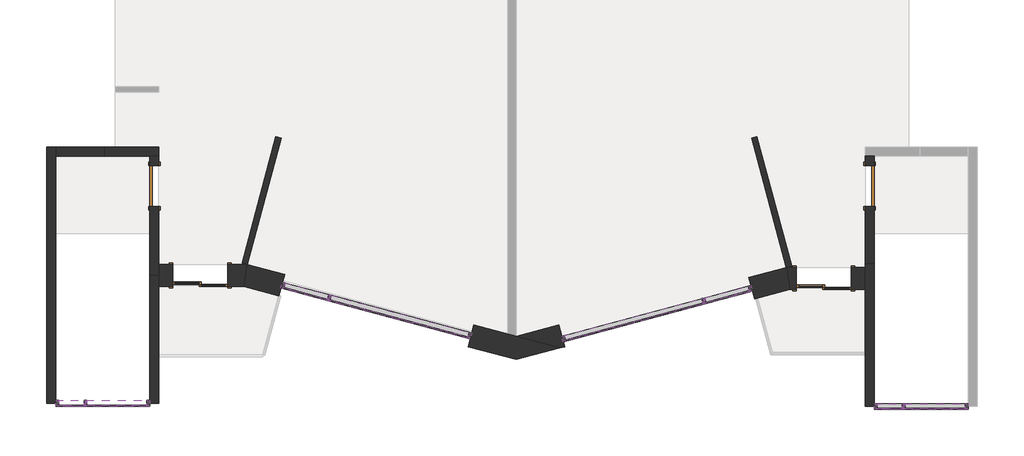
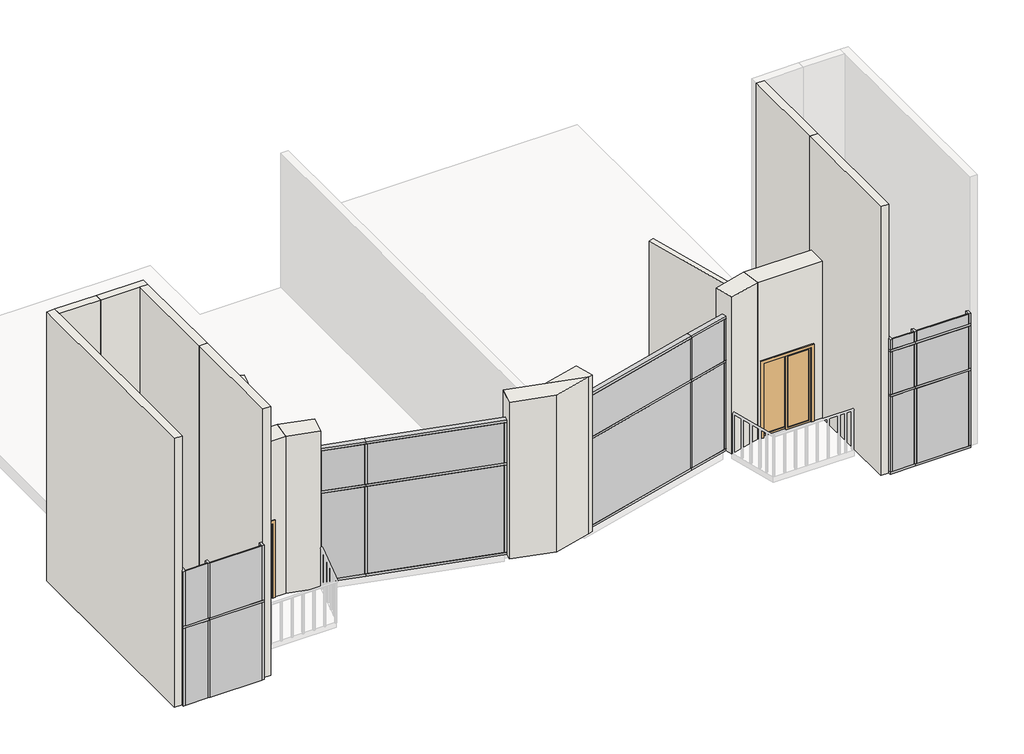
# One storey, part 1 of 2: 47 members, 18 plates, 15 walls, 4 doors.
"""IFC4 building model written with IfcOpenShell, lengths in millimetres."""

from ifc_helpers import new_model, si_unit, frame, origin, place, context, project, spatial, polyline, outline, extrude, faceted_brep, transform, mapped, element, save
from components import door_4f2f89b6, door_09f6fe45, sliding_2_panel_fa528627, glazed_panel_glazed_panel_b2ebe934, glazed_panel_glazed_panel_48c708ce, glazed_panel_glazed_panel_1e96fca1, glazed_panel_glazed_panel_5dc94581, glazed_panel_glazed_panel_56ef64bd, glazed_panel_glazed_panel_eaccde55, glazed_panel_glazed_panel_fd88623c, glazed_panel_glazed_panel_71207702, glazed_panel_glazed_panel_82ed4464, glazed_panel_glazed_panel_c8631b44, glazed_panel_glazed_panel_1da3f97b, glazed_panel_glazed_panel_d60c81f7, glazed_panel_glazed_panel_666a1eef, glazed_panel_glazed_panel_fae6096d, glazed_panel_glazed_panel_424e5e11, glazed_panel_glazed_panel_31fbc108, glazed_panel_glazed_panel_2c2364df, glazed_panel_glazed_panel_bd68a80f

model = new_model("IFC4")

# Units and contexts
model_context = context("Model", 3, world=origin())
ifc_project = project(units=[si_unit("LENGTHUNIT", "METRE", prefix="MILLI")], contexts=[model_context])

# Site, building, storey
site = spatial("IfcSite", under=ifc_project)
building = spatial("IfcBuilding", under=site)
storey = spatial("IfcBuildingStorey", under=building, Name="3rd Flr. Cnst.", Elevation=7315.2)

# Doors
placement = place(None, origin())
door_shape = door_4f2f89b6(model_context)
element("IfcDoor", 1, ObjectType="Sgl Flush : 36\" x 80\"", at=placement, inside=storey, context=model_context, shape_type="MappedRepresentation", body=[
    mapped(door_shape, transform((-178.915882, -926.5666814, 7315.2), x_axis=(0.0, 1.0, 0.0), y_axis=(-1.0, 0.0, 0.0), z_axis=(0.0, 0.0, 1.0))),
])
door_2_shape = door_09f6fe45(model_context)
element("IfcDoor", 2, ObjectType="Sgl Flush : 36\" x 80\"", at=placement, inside=storey, context=model_context, shape_type="MappedRepresentation", body=[
    mapped(door_2_shape, transform((15670.684118, -926.5666814, 7315.2), x_axis=(0.0, 1.0, 0.0), y_axis=(-1.0, 0.0, 0.0), z_axis=(0.0, 0.0, 1.0))),
])
sliding_2_panel_shape = sliding_2_panel_fa528627(model_context)
element("IfcDoor", 3, ObjectType="Sliding-2 panel : Cohouse - Sliding-2 ", at=placement, inside=storey, context=model_context, shape_type="MappedRepresentation", body=[
    mapped(sliding_2_panel_shape, transform((837.084118, -2780.7666814, 7315.2), x_axis=(-1.0, 0.0, 0.0), y_axis=(0.0, -1.0, 0.0), z_axis=(0.0, 0.0, 1.0))),
])
element("IfcDoor", 4, ObjectType="Sliding-2 panel : Cohouse - Sliding-2 ", at=placement, inside=storey, context=model_context, shape_type="MappedRepresentation", body=[
    mapped(sliding_2_panel_shape, transform((14654.684118, -2848.4709645, 7315.2), x_axis=(-1.0, 0.0, 0.0), y_axis=(0.0, -1.0, 0.0), z_axis=(0.0, 0.0, 1.0))),
])

# Members
element("IfcMember", 5, ObjectType="Rectangular Mullion : 2.5\" x 5\" rectangular", at=placement, inside=storey, context=model_context, shape_type="SweptSolid", body=[
    extrude(outline(polyline([(3713.0844872, -3476.6816756), (3651.7481973, -3460.2466663), (3684.618216, -3337.5740863), (3745.954506, -3354.0090957), (3713.0844872, -3476.6816756)])), frame((0.0, 0.0, 7378.7), z_axis=(0.0, 0.0, 1.0), x_axis=(1.0, 0.0, 0.0)), (0.0, 0.0, 1.0), 2374.9),
])
element("IfcMember", 6, ObjectType="Rectangular Mullion : 2.5\" x 5\" rectangular", at=placement, inside=storey, context=model_context, shape_type="SweptSolid", body=[
    extrude(outline(polyline([(3713.0844872, -3476.6816756), (3651.7481973, -3460.2466663), (3684.618216, -3337.5740863), (3745.954506, -3354.0090957), (3713.0844872, -3476.6816756)])), frame((0.0, 0.0, 9817.1), z_axis=(0.0, 0.0, 1.0), x_axis=(1.0, 0.0, 0.0)), (0.0, 0.0, 1.0), 1092.2),
])
element("IfcMember", 7, ObjectType="Rectangular Mullion : 2.5\" x 5\" rectangular", at=placement, inside=storey, context=model_context, shape_type="SweptSolid", body=[
    extrude(outline(polyline([(3715.286361, -3345.791591), (3682.4163423, -3468.4641709), (2626.8568487, -3185.6278571), (2659.7268674, -3062.9552771), (3715.286361, -3345.791591)])), frame((0.0, 0.0, 9753.6), z_axis=(0.0, 0.0, 1.0), x_axis=(1.0, 0.0, 0.0)), (0.0, 0.0, 1.0), 63.5),
])
element("IfcMember", 8, ObjectType="Rectangular Mullion : 2.5\" x 5\" rectangular", at=placement, inside=storey, context=model_context, shape_type="SweptSolid", body=[
    extrude(outline(polyline([(6855.7490815, -4187.2760408), (6822.8790627, -4309.9486208), (3682.4163423, -3468.4641709), (3715.286361, -3345.791591), (6855.7490815, -4187.2760408)])), frame((0.0, 0.0, 9753.6), z_axis=(0.0, 0.0, 1.0), x_axis=(1.0, 0.0, 0.0)), (0.0, 0.0, 1.0), 63.5),
])
element("IfcMember", 9, ObjectType="Rectangular Mullion : 2.5\" x 5\" rectangular", at=placement, inside=storey, context=model_context, shape_type="SweptSolid", body=[
    extrude(outline(polyline([(6855.7490815, -4187.2760408), (6822.8790627, -4309.9486208), (3682.4163423, -3468.4641709), (3715.286361, -3345.791591), (6855.7490815, -4187.2760408)])), frame((0.0, 0.0, 10909.3), z_axis=(0.0, 0.0, 1.0), x_axis=(1.0, 0.0, 0.0)), (0.0, 0.0, 1.0), 63.5),
])
element("IfcMember", 10, ObjectType="Rectangular Mullion : 2.5\" x 5\" rectangular", at=placement, inside=storey, context=model_context, shape_type="SweptSolid", body=[
    extrude(outline(polyline([(3715.286361, -3345.791591), (3682.4163423, -3468.4641709), (2626.8568487, -3185.6278571), (2659.7268674, -3062.9552771), (3715.286361, -3345.791591)])), frame((0.0, 0.0, 10909.3), z_axis=(0.0, 0.0, 1.0), x_axis=(1.0, 0.0, 0.0)), (0.0, 0.0, 1.0), 63.5),
])
element("IfcMember", 11, ObjectType="Rectangular Mullion : 2.5\" x 5\" rectangular", at=placement, inside=storey, context=model_context, shape_type="SweptSolid", body=[
    extrude(outline(polyline([(2626.8568487, -3185.6278571), (2659.7268674, -3062.9552771), (3715.286361, -3345.791591), (3682.4163423, -3468.4641709), (2626.8568487, -3185.6278571)])), frame((0.0, 0.0, 7315.2), z_axis=(0.0, 0.0, 1.0), x_axis=(1.0, 0.0, 0.0)), (0.0, 0.0, 1.0), 63.5),
])
element("IfcMember", 12, ObjectType="Rectangular Mullion : 2.5\" x 5\" rectangular", at=placement, inside=storey, context=model_context, shape_type="SweptSolid", body=[
    extrude(outline(polyline([(3682.4163423, -3468.4641709), (3715.286361, -3345.791591), (6855.7490815, -4187.2760408), (6822.8790627, -4309.9486208), (3682.4163423, -3468.4641709)])), frame((0.0, 0.0, 7315.2), z_axis=(0.0, 0.0, 1.0), x_axis=(1.0, 0.0, 0.0)), (0.0, 0.0, 1.0), 63.5),
])
element("IfcMember", 13, ObjectType="Rectangular Mullion : 2.5\" x 5\" rectangular", at=placement, inside=storey, context=model_context, shape_type="SweptSolid", body=[
    extrude(outline(polyline([(6822.8790627, -4309.9486208), (6761.5427728, -4293.5136114), (6794.4127915, -4170.8410315), (6855.7490815, -4187.2760408), (6822.8790627, -4309.9486208)])), frame((0.0, 0.0, 7378.7), z_axis=(0.0, 0.0, 1.0), x_axis=(1.0, 0.0, 0.0)), (0.0, 0.0, 1.0), 2374.9),
])
element("IfcMember", 14, ObjectType="Rectangular Mullion : 2.5\" x 5\" rectangular", at=placement, inside=storey, context=model_context, shape_type="SweptSolid", body=[
    extrude(outline(polyline([(6822.8790627, -4309.9486208), (6761.5427728, -4293.5136114), (6794.4127915, -4170.8410315), (6855.7490815, -4187.2760408), (6822.8790627, -4309.9486208)])), frame((0.0, 0.0, 9817.1), z_axis=(0.0, 0.0, 1.0), x_axis=(1.0, 0.0, 0.0)), (0.0, 0.0, 1.0), 1092.2),
])
element("IfcMember", 15, ObjectType="Rectangular Mullion : 2.5\" x 5\" rectangular", at=placement, inside=storey, context=model_context, shape_type="SweptSolid", body=[
    extrude(outline(polyline([(2626.8568487, -3185.6278571), (2659.7268674, -3062.9552771), (2721.0631574, -3079.3902865), (2688.1931387, -3202.0628664), (2626.8568487, -3185.6278571)])), frame((0.0, 0.0, 9817.1), z_axis=(0.0, 0.0, 1.0), x_axis=(1.0, 0.0, 0.0)), (0.0, 0.0, 1.0), 1092.2),
])
element("IfcMember", 16, ObjectType="Rectangular Mullion : 2.5\" x 5\" rectangular", at=placement, inside=storey, context=model_context, shape_type="SweptSolid", body=[
    extrude(outline(polyline([(2626.8568487, -3185.6278571), (2659.7268674, -3062.9552771), (2721.0631574, -3079.3902865), (2688.1931387, -3202.0628664), (2626.8568487, -3185.6278571)])), frame((0.0, 0.0, 7378.7), z_axis=(0.0, 0.0, 1.0), x_axis=(1.0, 0.0, 0.0)), (0.0, 0.0, 1.0), 2374.9),
])
element("IfcMember", 17, ObjectType="Rectangular Mullion : 2.5\" x 5\" rectangular", at=placement, inside=storey, context=model_context, shape_type="SweptSolid", body=[
    extrude(outline(polyline([(11954.4366424, -3421.7133787), (12015.7729323, -3405.2783694), (12048.642951, -3527.9509493), (11987.3066611, -3544.3859587), (11954.4366424, -3421.7133787)])), frame((0.0, 0.0, 7378.7), z_axis=(0.0, 0.0, 1.0), x_axis=(1.0, 0.0, 0.0)), (0.0, 0.0, 1.0), 2343.15),
])
element("IfcMember", 18, ObjectType="Rectangular Mullion : 2.5\" x 5\" rectangular", at=placement, inside=storey, context=model_context, shape_type="SweptSolid", body=[
    extrude(outline(polyline([(11954.4366424, -3421.7133787), (12015.7729323, -3405.2783694), (12048.642951, -3527.9509493), (11987.3066611, -3544.3859587), (11954.4366424, -3421.7133787)])), frame((0.0, 0.0, 9785.35), z_axis=(0.0, 0.0, 1.0), x_axis=(1.0, 0.0, 0.0)), (0.0, 0.0, 1.0), 1123.95),
])
element("IfcMember", 19, ObjectType="Rectangular Mullion : 2.5\" x 5\" rectangular", at=placement, inside=storey, context=model_context, shape_type="SweptSolid", body=[
    extrude(outline(polyline([(12017.9748061, -3536.168454), (11985.1047873, -3413.495874), (13040.6642809, -3130.6595602), (13073.5342996, -3253.3321401), (12017.9748061, -3536.168454)])), frame((0.0, 0.0, 9721.85), z_axis=(0.0, 0.0, 1.0), x_axis=(1.0, 0.0, 0.0)), (0.0, 0.0, 1.0), 63.5),
])
element("IfcMember", 20, ObjectType="Rectangular Mullion : 2.5\" x 5\" rectangular", at=placement, inside=storey, context=model_context, shape_type="SweptSolid", body=[
    extrude(outline(polyline([(8877.5120856, -4377.6529038), (8844.6420668, -4254.9803239), (11985.1047873, -3413.495874), (12017.9748061, -3536.168454), (8877.5120856, -4377.6529038)])), frame((0.0, 0.0, 9721.85), z_axis=(0.0, 0.0, 1.0), x_axis=(1.0, 0.0, 0.0)), (0.0, 0.0, 1.0), 63.5),
])
element("IfcMember", 21, ObjectType="Rectangular Mullion : 2.5\" x 5\" rectangular", at=placement, inside=storey, context=model_context, shape_type="SweptSolid", body=[
    extrude(outline(polyline([(8877.5120856, -4377.6529038), (8844.6420668, -4254.9803239), (11985.1047873, -3413.495874), (12017.9748061, -3536.168454), (8877.5120856, -4377.6529038)])), frame((0.0, 0.0, 10909.3), z_axis=(0.0, 0.0, 1.0), x_axis=(1.0, 0.0, 0.0)), (0.0, 0.0, 1.0), 63.5),
])
element("IfcMember", 22, ObjectType="Rectangular Mullion : 2.5\" x 5\" rectangular", at=placement, inside=storey, context=model_context, shape_type="SweptSolid", body=[
    extrude(outline(polyline([(12017.9748061, -3536.168454), (11985.1047873, -3413.495874), (13040.6642809, -3130.6595602), (13073.5342996, -3253.3321401), (12017.9748061, -3536.168454)])), frame((0.0, 0.0, 10909.3), z_axis=(0.0, 0.0, 1.0), x_axis=(1.0, 0.0, 0.0)), (0.0, 0.0, 1.0), 63.5),
])
element("IfcMember", 23, ObjectType="Rectangular Mullion : 2.5\" x 5\" rectangular", at=placement, inside=storey, context=model_context, shape_type="SweptSolid", body=[
    extrude(outline(polyline([(13040.6642809, -3130.6595602), (13073.5342996, -3253.3321401), (12017.9748061, -3536.168454), (11985.1047873, -3413.495874), (13040.6642809, -3130.6595602)])), frame((0.0, 0.0, 7315.2), z_axis=(0.0, 0.0, 1.0), x_axis=(1.0, 0.0, 0.0)), (0.0, 0.0, 1.0), 63.5),
])
element("IfcMember", 24, ObjectType="Rectangular Mullion : 2.5\" x 5\" rectangular", at=placement, inside=storey, context=model_context, shape_type="SweptSolid", body=[
    extrude(outline(polyline([(11985.1047873, -3413.495874), (12017.9748061, -3536.168454), (8877.5120856, -4377.6529038), (8844.6420668, -4254.9803239), (11985.1047873, -3413.495874)])), frame((0.0, 0.0, 7315.2), z_axis=(0.0, 0.0, 1.0), x_axis=(1.0, 0.0, 0.0)), (0.0, 0.0, 1.0), 63.5),
])
element("IfcMember", 25, ObjectType="Rectangular Mullion : 2.5\" x 5\" rectangular", at=placement, inside=storey, context=model_context, shape_type="SweptSolid", body=[
    extrude(outline(polyline([(8844.6420668, -4254.9803239), (8905.9783568, -4238.5453145), (8938.8483755, -4361.2178944), (8877.5120856, -4377.6529038), (8844.6420668, -4254.9803239)])), frame((0.0, 0.0, 7378.7), z_axis=(0.0, 0.0, 1.0), x_axis=(1.0, 0.0, 0.0)), (0.0, 0.0, 1.0), 2343.15),
])
element("IfcMember", 26, ObjectType="Rectangular Mullion : 2.5\" x 5\" rectangular", at=placement, inside=storey, context=model_context, shape_type="SweptSolid", body=[
    extrude(outline(polyline([(8844.6420668, -4254.9803239), (8905.9783568, -4238.5453145), (8938.8483755, -4361.2178944), (8877.5120856, -4377.6529038), (8844.6420668, -4254.9803239)])), frame((0.0, 0.0, 9785.35), z_axis=(0.0, 0.0, 1.0), x_axis=(1.0, 0.0, 0.0)), (0.0, 0.0, 1.0), 1123.95),
])
element("IfcMember", 27, ObjectType="Rectangular Mullion : 2.5\" x 5\" rectangular", at=placement, inside=storey, context=model_context, shape_type="SweptSolid", body=[
    extrude(outline(polyline([(13040.6642809, -3130.6595602), (13073.5342996, -3253.3321401), (13012.1980097, -3269.7671495), (12979.3279909, -3147.0945695), (13040.6642809, -3130.6595602)])), frame((0.0, 0.0, 9785.35), z_axis=(0.0, 0.0, 1.0), x_axis=(1.0, 0.0, 0.0)), (0.0, 0.0, 1.0), 1123.95),
])
element("IfcMember", 28, ObjectType="Rectangular Mullion : 2.5\" x 5\" rectangular", at=placement, inside=storey, context=model_context, shape_type="SweptSolid", body=[
    extrude(outline(polyline([(13040.6642809, -3130.6595602), (13073.5342996, -3253.3321401), (13012.1980097, -3269.7671495), (12979.3279909, -3147.0945695), (13040.6642809, -3130.6595602)])), frame((0.0, 0.0, 7378.7), z_axis=(0.0, 0.0, 1.0), x_axis=(1.0, 0.0, 0.0)), (0.0, 0.0, 1.0), 2343.15),
])
element("IfcMember", 29, ObjectType="Rectangular Mullion : 2.5\" x 5\" rectangular", at=placement, inside=storey, context=model_context, shape_type="SweptSolid", body=[
    extrude(outline(polyline([(-2363.315882, -5683.4046074), (-2299.815882, -5683.4046074), (-2299.815882, -5810.4046074), (-2363.315882, -5810.4046074), (-2363.315882, -5683.4046074)])), frame((0.0, 0.0, 7315.2), z_axis=(0.0, 0.0, 1.0), x_axis=(1.0, 0.0, 0.0)), (0.0, 0.0, 1.0), 2101.85),
])
element("IfcMember", 30, ObjectType="Rectangular Mullion : 2.5\" x 5\" rectangular", at=placement, inside=storey, context=model_context, shape_type="SweptSolid", body=[
    extrude(outline(polyline([(-280.515882, -5683.4046074), (-280.515882, -5810.4046074), (-344.015882, -5810.4046074), (-344.015882, -5683.4046074), (-280.515882, -5683.4046074)])), frame((0.0, 0.0, 9480.55), z_axis=(0.0, 0.0, 1.0), x_axis=(1.0, 0.0, 0.0)), (0.0, 0.0, 1.0), 1492.25),
])
element("IfcMember", 31, ObjectType="Rectangular Mullion : 2.5\" x 5\" rectangular", at=placement, inside=storey, context=model_context, shape_type="SweptSolid", body=[
    extrude(outline(polyline([(-1734.665882, -5683.4046074), (-1671.165882, -5683.4046074), (-1671.165882, -5810.4046074), (-1734.665882, -5810.4046074), (-1734.665882, -5683.4046074)])), frame((0.0, 0.0, 7315.2), z_axis=(0.0, 0.0, 1.0), x_axis=(1.0, 0.0, 0.0)), (0.0, 0.0, 1.0), 2101.85),
])
element("IfcMember", 32, ObjectType="Rectangular Mullion : 2.5\" x 5\" rectangular", at=placement, inside=storey, context=model_context, shape_type="SweptSolid", body=[
    extrude(outline(polyline([(-1702.915882, -5810.4046074), (-1702.915882, -5683.4046074), (-280.515882, -5683.4046074), (-280.515882, -5810.4046074), (-1702.915882, -5810.4046074)])), frame((0.0, 0.0, 9417.05), z_axis=(0.0, 0.0, 1.0), x_axis=(1.0, 0.0, 0.0)), (0.0, 0.0, 1.0), 63.5),
])
element("IfcMember", 33, ObjectType="Rectangular Mullion : 2.5\" x 5\" rectangular", at=placement, inside=storey, context=model_context, shape_type="SweptSolid", body=[
    extrude(outline(polyline([(-2363.315882, -5810.4046074), (-2363.315882, -5683.4046074), (-1702.915882, -5683.4046074), (-1702.915882, -5810.4046074), (-2363.315882, -5810.4046074)])), frame((0.0, 0.0, 9417.05), z_axis=(0.0, 0.0, 1.0), x_axis=(1.0, 0.0, 0.0)), (0.0, 0.0, 1.0), 63.5),
])
element("IfcMember", 34, ObjectType="Rectangular Mullion : 2.5\" x 5\" rectangular", at=placement, inside=storey, context=model_context, shape_type="SweptSolid", body=[
    extrude(outline(polyline([(-2363.315882, -5683.4046074), (-2299.815882, -5683.4046074), (-2299.815882, -5810.4046074), (-2363.315882, -5810.4046074), (-2363.315882, -5683.4046074)])), frame((0.0, 0.0, 9480.55), z_axis=(0.0, 0.0, 1.0), x_axis=(1.0, 0.0, 0.0)), (0.0, 0.0, 1.0), 1492.25),
])
element("IfcMember", 35, ObjectType="Rectangular Mullion : 2.5\" x 5\" rectangular", at=placement, inside=storey, context=model_context, shape_type="SweptSolid", body=[
    extrude(outline(polyline([(-280.515882, -5683.4046074), (-280.515882, -5810.4046074), (-344.015882, -5810.4046074), (-344.015882, -5683.4046074), (-280.515882, -5683.4046074)])), frame((0.0, 0.0, 7315.2), z_axis=(0.0, 0.0, 1.0), x_axis=(1.0, 0.0, 0.0)), (0.0, 0.0, 1.0), 2101.85),
])
element("IfcMember", 36, ObjectType="Rectangular Mullion : 2.5\" x 5\" rectangular", at=placement, inside=storey, context=model_context, shape_type="SweptSolid", body=[
    extrude(outline(polyline([(-1734.665882, -5683.4046074), (-1671.165882, -5683.4046074), (-1671.165882, -5810.4046074), (-1734.665882, -5810.4046074), (-1734.665882, -5683.4046074)])), frame((0.0, 0.0, 9480.55), z_axis=(0.0, 0.0, 1.0), x_axis=(1.0, 0.0, 0.0)), (0.0, 0.0, 1.0), 1492.25),
])
element("IfcMember", 37, ObjectType="Rectangular Mullion : 2.5\" x 5\" rectangular", at=placement, inside=storey, context=model_context, shape_type="SweptSolid", body=[
    extrude(outline(polyline([(16391.409118, -5752.9636494), (16454.909118, -5752.9636494), (16454.909118, -5879.9636494), (16391.409118, -5879.9636494), (16391.409118, -5752.9636494)])), frame((0.0, 0.0, 7378.7), z_axis=(0.0, 0.0, 1.0), x_axis=(1.0, 0.0, 0.0)), (0.0, 0.0, 1.0), 2038.35),
])
element("IfcMember", 38, ObjectType="Rectangular Mullion : 2.5\" x 5\" rectangular", at=placement, inside=storey, context=model_context, shape_type="SweptSolid", body=[
    extrude(outline(polyline([(16391.409118, -5752.9636494), (16454.909118, -5752.9636494), (16454.909118, -5879.9636494), (16391.409118, -5879.9636494), (16391.409118, -5752.9636494)])), frame((0.0, 0.0, 10699.75), z_axis=(0.0, 0.0, 1.0), x_axis=(1.0, 0.0, 0.0)), (0.0, 0.0, 1.0), 273.05),
])
element("IfcMember", 39, ObjectType="Rectangular Mullion : 2.5\" x 5\" rectangular", at=placement, inside=storey, context=model_context, shape_type="SweptSolid", body=[
    extrude(outline(polyline([(16391.409118, -5752.9636494), (16454.909118, -5752.9636494), (16454.909118, -5879.9636494), (16391.409118, -5879.9636494), (16391.409118, -5752.9636494)])), frame((0.0, 0.0, 9480.55), z_axis=(0.0, 0.0, 1.0), x_axis=(1.0, 0.0, 0.0)), (0.0, 0.0, 1.0), 1155.7),
])
element("IfcMember", 40, ObjectType="Rectangular Mullion : 2.5\" x 5\" rectangular", at=placement, inside=storey, context=model_context, shape_type="SweptSolid", body=[
    extrude(outline(polyline([(17855.084118, -5752.9636494), (17855.084118, -5879.9636494), (16423.159118, -5879.9636494), (16423.159118, -5752.9636494), (17855.084118, -5752.9636494)])), frame((0.0, 0.0, 7315.2), z_axis=(0.0, 0.0, 1.0), x_axis=(1.0, 0.0, 0.0)), (0.0, 0.0, 1.0), 63.5),
])
element("IfcMember", 41, ObjectType="Rectangular Mullion : 2.5\" x 5\" rectangular", at=placement, inside=storey, context=model_context, shape_type="SweptSolid", body=[
    extrude(outline(polyline([(15772.284118, -5752.9636494), (15835.784118, -5752.9636494), (15835.784118, -5879.9636494), (15772.284118, -5879.9636494), (15772.284118, -5752.9636494)])), frame((0.0, 0.0, 7378.7), z_axis=(0.0, 0.0, 1.0), x_axis=(1.0, 0.0, 0.0)), (0.0, 0.0, 1.0), 2038.35),
])
element("IfcMember", 42, ObjectType="Rectangular Mullion : 2.5\" x 5\" rectangular", at=placement, inside=storey, context=model_context, shape_type="SweptSolid", body=[
    extrude(outline(polyline([(17855.084118, -5752.9636494), (17855.084118, -5879.9636494), (17791.584118, -5879.9636494), (17791.584118, -5752.9636494), (17855.084118, -5752.9636494)])), frame((0.0, 0.0, 10699.75), z_axis=(0.0, 0.0, 1.0), x_axis=(1.0, 0.0, 0.0)), (0.0, 0.0, 1.0), 273.05),
])
element("IfcMember", 43, ObjectType="Rectangular Mullion : 2.5\" x 5\" rectangular", at=placement, inside=storey, context=model_context, shape_type="SweptSolid", body=[
    extrude(outline(polyline([(16423.159118, -5879.9636494), (16423.159118, -5752.9636494), (17855.084118, -5752.9636494), (17855.084118, -5879.9636494), (16423.159118, -5879.9636494)])), frame((0.0, 0.0, 10636.25), z_axis=(0.0, 0.0, 1.0), x_axis=(1.0, 0.0, 0.0)), (0.0, 0.0, 1.0), 63.5),
])
element("IfcMember", 44, ObjectType="Rectangular Mullion : 2.5\" x 5\" rectangular", at=placement, inside=storey, context=model_context, shape_type="SweptSolid", body=[
    extrude(outline(polyline([(15772.284118, -5879.9636494), (15772.284118, -5752.9636494), (16423.159118, -5752.9636494), (16423.159118, -5879.9636494), (15772.284118, -5879.9636494)])), frame((0.0, 0.0, 10636.25), z_axis=(0.0, 0.0, 1.0), x_axis=(1.0, 0.0, 0.0)), (0.0, 0.0, 1.0), 63.5),
])
element("IfcMember", 45, ObjectType="Rectangular Mullion : 2.5\" x 5\" rectangular", at=placement, inside=storey, context=model_context, shape_type="SweptSolid", body=[
    extrude(outline(polyline([(16423.159118, -5879.9636494), (16423.159118, -5752.9636494), (17855.084118, -5752.9636494), (17855.084118, -5879.9636494), (16423.159118, -5879.9636494)])), frame((0.0, 0.0, 9417.05), z_axis=(0.0, 0.0, 1.0), x_axis=(1.0, 0.0, 0.0)), (0.0, 0.0, 1.0), 63.5),
])
element("IfcMember", 46, ObjectType="Rectangular Mullion : 2.5\" x 5\" rectangular", at=placement, inside=storey, context=model_context, shape_type="SweptSolid", body=[
    extrude(outline(polyline([(15772.284118, -5879.9636494), (15772.284118, -5752.9636494), (16423.159118, -5752.9636494), (16423.159118, -5879.9636494), (15772.284118, -5879.9636494)])), frame((0.0, 0.0, 9417.05), z_axis=(0.0, 0.0, 1.0), x_axis=(1.0, 0.0, 0.0)), (0.0, 0.0, 1.0), 63.5),
])
element("IfcMember", 47, ObjectType="Rectangular Mullion : 2.5\" x 5\" rectangular", at=placement, inside=storey, context=model_context, shape_type="SweptSolid", body=[
    extrude(outline(polyline([(16423.159118, -5752.9636494), (16423.159118, -5879.9636494), (15772.284118, -5879.9636494), (15772.284118, -5752.9636494), (16423.159118, -5752.9636494)])), frame((0.0, 0.0, 7315.2), z_axis=(0.0, 0.0, 1.0), x_axis=(1.0, 0.0, 0.0)), (0.0, 0.0, 1.0), 63.5),
])
element("IfcMember", 48, ObjectType="Rectangular Mullion : 2.5\" x 5\" rectangular", at=placement, inside=storey, context=model_context, shape_type="SweptSolid", body=[
    extrude(outline(polyline([(15772.284118, -5752.9636494), (15835.784118, -5752.9636494), (15835.784118, -5879.9636494), (15772.284118, -5879.9636494), (15772.284118, -5752.9636494)])), frame((0.0, 0.0, 10699.75), z_axis=(0.0, 0.0, 1.0), x_axis=(1.0, 0.0, 0.0)), (0.0, 0.0, 1.0), 273.05),
])
element("IfcMember", 49, ObjectType="Rectangular Mullion : 2.5\" x 5\" rectangular", at=placement, inside=storey, context=model_context, shape_type="SweptSolid", body=[
    extrude(outline(polyline([(15772.284118, -5752.9636494), (15835.784118, -5752.9636494), (15835.784118, -5879.9636494), (15772.284118, -5879.9636494), (15772.284118, -5752.9636494)])), frame((0.0, 0.0, 9480.55), z_axis=(0.0, 0.0, 1.0), x_axis=(1.0, 0.0, 0.0)), (0.0, 0.0, 1.0), 1155.7),
])
element("IfcMember", 50, ObjectType="Rectangular Mullion : 2.5\" x 5\" rectangular", at=placement, inside=storey, context=model_context, shape_type="SweptSolid", body=[
    extrude(outline(polyline([(17855.084118, -5752.9636494), (17855.084118, -5879.9636494), (17791.584118, -5879.9636494), (17791.584118, -5752.9636494), (17855.084118, -5752.9636494)])), frame((0.0, 0.0, 9480.55), z_axis=(0.0, 0.0, 1.0), x_axis=(1.0, 0.0, 0.0)), (0.0, 0.0, 1.0), 1155.7),
])
element("IfcMember", 51, ObjectType="Rectangular Mullion : 2.5\" x 5\" rectangular", at=placement, inside=storey, context=model_context, shape_type="SweptSolid", body=[
    extrude(outline(polyline([(17855.084118, -5752.9636494), (17855.084118, -5879.9636494), (17791.584118, -5879.9636494), (17791.584118, -5752.9636494), (17855.084118, -5752.9636494)])), frame((0.0, 0.0, 7378.7), z_axis=(0.0, 0.0, 1.0), x_axis=(1.0, 0.0, 0.0)), (0.0, 0.0, 1.0), 2038.35),
])

# Plates
glazed_panel_glazed_panel_shape = glazed_panel_glazed_panel_b2ebe934(model_context)
element("IfcPlate", 52, ObjectType="Glazed Panel : Glazed Panel", at=placement, inside=storey, context=model_context, shape_type="MappedRepresentation", body=[
    mapped(glazed_panel_glazed_panel_shape, transform((3186.4056773, -3269.8184764, 7378.7), x_axis=(0.9659258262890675, -0.2588190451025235, 0.0), y_axis=(0.2588190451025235, 0.9659258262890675, 0.0), z_axis=(0.0, 0.0, 1.0))),
])
glazed_panel_glazed_panel_2_shape = glazed_panel_glazed_panel_48c708ce(model_context)
element("IfcPlate", 53, ObjectType="Glazed Panel : Glazed Panel", at=placement, inside=storey, context=model_context, shape_type="MappedRepresentation", body=[
    mapped(glazed_panel_glazed_panel_2_shape, transform((5253.7486394, -3823.7613535, 7378.7), x_axis=(0.9659258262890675, -0.2588190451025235, 0.0), y_axis=(0.2588190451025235, 0.9659258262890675, 0.0), z_axis=(0.0, 0.0, 1.0))),
])
glazed_panel_glazed_panel_3_shape = glazed_panel_glazed_panel_1e96fca1(model_context)
element("IfcPlate", 54, ObjectType="Glazed Panel : Glazed Panel", at=placement, inside=storey, context=model_context, shape_type="MappedRepresentation", body=[
    mapped(glazed_panel_glazed_panel_3_shape, transform((12513.985471, -3337.5227594, 7378.7), x_axis=(-0.9659258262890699, -0.2588190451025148, 0.0), y_axis=(0.2588190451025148, -0.9659258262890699, 0.0), z_axis=(0.0, 0.0, 1.0))),
])
glazed_panel_glazed_panel_4_shape = glazed_panel_glazed_panel_5dc94581(model_context)
element("IfcPlate", 55, ObjectType="Glazed Panel : Glazed Panel", at=placement, inside=storey, context=model_context, shape_type="MappedRepresentation", body=[
    mapped(glazed_panel_glazed_panel_4_shape, transform((17123.246618, -5816.4636494, 7378.7), x_axis=(-1.0, 0.0, 0.0), y_axis=(0.0, -1.0, 0.0), z_axis=(0.0, 0.0, 1.0))),
])
glazed_panel_glazed_panel_5_shape = glazed_panel_glazed_panel_56ef64bd(model_context)
element("IfcPlate", 56, ObjectType="Glazed Panel : Glazed Panel", at=placement, inside=storey, context=model_context, shape_type="MappedRepresentation", body=[
    mapped(glazed_panel_glazed_panel_5_shape, transform((17123.246618, -5816.4636494, 10699.75), x_axis=(-1.0, 0.0, 0.0), y_axis=(0.0, -1.0, 0.0), z_axis=(0.0, 0.0, 1.0))),
])
glazed_panel_glazed_panel_6_shape = glazed_panel_glazed_panel_eaccde55(model_context)
element("IfcPlate", 57, ObjectType="Glazed Panel : Glazed Panel", at=placement, inside=storey, context=model_context, shape_type="MappedRepresentation", body=[
    mapped(glazed_panel_glazed_panel_6_shape, transform((16113.596618, -5816.4636494, 7378.7), x_axis=(-1.0, 0.0, 0.0), y_axis=(0.0, -1.0, 0.0), z_axis=(0.0, 0.0, 1.0))),
])
glazed_panel_glazed_panel_7_shape = glazed_panel_glazed_panel_fd88623c(model_context)
element("IfcPlate", 58, ObjectType="Glazed Panel : Glazed Panel", at=placement, inside=storey, context=model_context, shape_type="MappedRepresentation", body=[
    mapped(glazed_panel_glazed_panel_7_shape, transform((16113.596618, -5816.4636494, 10699.75), x_axis=(-1.0, 0.0, 0.0), y_axis=(0.0, -1.0, 0.0), z_axis=(0.0, 0.0, 1.0))),
])
glazed_panel_glazed_panel_8_shape = glazed_panel_glazed_panel_71207702(model_context)
element("IfcPlate", 59, ObjectType="Glazed Panel : Glazed Panel", at=placement, inside=storey, context=model_context, shape_type="MappedRepresentation", body=[
    mapped(glazed_panel_glazed_panel_8_shape, transform((17123.246618, -5816.4636494, 9480.55), x_axis=(-1.0, 0.0, 0.0), y_axis=(0.0, -1.0, 0.0), z_axis=(0.0, 0.0, 1.0))),
])
glazed_panel_glazed_panel_9_shape = glazed_panel_glazed_panel_82ed4464(model_context)
element("IfcPlate", 60, ObjectType="Glazed Panel : Glazed Panel", at=placement, inside=storey, context=model_context, shape_type="MappedRepresentation", body=[
    mapped(glazed_panel_glazed_panel_9_shape, transform((16113.596618, -5816.4636494, 9480.55), x_axis=(-1.0, 0.0, 0.0), y_axis=(0.0, -1.0, 0.0), z_axis=(0.0, 0.0, 1.0))),
])
glazed_panel_glazed_panel_10_shape = glazed_panel_glazed_panel_c8631b44(model_context)
element("IfcPlate", 61, ObjectType="Glazed Panel : Glazed Panel", at=placement, inside=storey, context=model_context, shape_type="MappedRepresentation", body=[
    mapped(glazed_panel_glazed_panel_10_shape, transform((-1007.590882, -5746.9046074, 7315.2), x_axis=(-1.0, 0.0, 0.0), y_axis=(0.0, -1.0, 0.0), z_axis=(0.0, 0.0, 1.0))),
])
glazed_panel_glazed_panel_11_shape = glazed_panel_glazed_panel_1da3f97b(model_context)
element("IfcPlate", 62, ObjectType="Glazed Panel : Glazed Panel", at=placement, inside=storey, context=model_context, shape_type="MappedRepresentation", body=[
    mapped(glazed_panel_glazed_panel_11_shape, transform((3186.4056773, -3269.8184764, 9817.1), x_axis=(0.9659258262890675, -0.2588190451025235, 0.0), y_axis=(0.2588190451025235, 0.9659258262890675, 0.0), z_axis=(0.0, 0.0, 1.0))),
])
glazed_panel_glazed_panel_12_shape = glazed_panel_glazed_panel_d60c81f7(model_context)
element("IfcPlate", 63, ObjectType="Glazed Panel : Glazed Panel", at=placement, inside=storey, context=model_context, shape_type="MappedRepresentation", body=[
    mapped(glazed_panel_glazed_panel_12_shape, transform((5253.7486394, -3823.7613535, 9817.1), x_axis=(0.9659258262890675, -0.2588190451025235, 0.0), y_axis=(0.2588190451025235, 0.9659258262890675, 0.0), z_axis=(0.0, 0.0, 1.0))),
])
glazed_panel_glazed_panel_13_shape = glazed_panel_glazed_panel_666a1eef(model_context)
element("IfcPlate", 64, ObjectType="Glazed Panel : Glazed Panel", at=placement, inside=storey, context=model_context, shape_type="MappedRepresentation", body=[
    mapped(glazed_panel_glazed_panel_13_shape, transform((10446.6425089, -3891.4656366, 7378.7), x_axis=(-0.9659258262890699, -0.2588190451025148, 0.0), y_axis=(0.2588190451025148, -0.9659258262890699, 0.0), z_axis=(0.0, 0.0, 1.0))),
])
glazed_panel_glazed_panel_14_shape = glazed_panel_glazed_panel_fae6096d(model_context)
element("IfcPlate", 65, ObjectType="Glazed Panel : Glazed Panel", at=placement, inside=storey, context=model_context, shape_type="MappedRepresentation", body=[
    mapped(glazed_panel_glazed_panel_14_shape, transform((12513.985471, -3337.5227594, 9785.35), x_axis=(-0.9659258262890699, -0.2588190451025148, 0.0), y_axis=(0.2588190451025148, -0.9659258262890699, 0.0), z_axis=(0.0, 0.0, 1.0))),
])
glazed_panel_glazed_panel_15_shape = glazed_panel_glazed_panel_424e5e11(model_context)
element("IfcPlate", 66, ObjectType="Glazed Panel : Glazed Panel", at=placement, inside=storey, context=model_context, shape_type="MappedRepresentation", body=[
    mapped(glazed_panel_glazed_panel_15_shape, transform((10446.6425089, -3891.4656366, 9785.35), x_axis=(-0.9659258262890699, -0.2588190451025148, 0.0), y_axis=(0.2588190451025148, -0.9659258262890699, 0.0), z_axis=(0.0, 0.0, 1.0))),
])
glazed_panel_glazed_panel_16_shape = glazed_panel_glazed_panel_31fbc108(model_context)
element("IfcPlate", 67, ObjectType="Glazed Panel : Glazed Panel", at=placement, inside=storey, context=model_context, shape_type="MappedRepresentation", body=[
    mapped(glazed_panel_glazed_panel_16_shape, transform((-2017.240882, -5746.9046074, 7315.2), x_axis=(-1.0, 0.0, 0.0), y_axis=(0.0, -1.0, 0.0), z_axis=(0.0, 0.0, 1.0))),
])
glazed_panel_glazed_panel_17_shape = glazed_panel_glazed_panel_2c2364df(model_context)
element("IfcPlate", 68, ObjectType="Glazed Panel : Glazed Panel", at=placement, inside=storey, context=model_context, shape_type="MappedRepresentation", body=[
    mapped(glazed_panel_glazed_panel_17_shape, transform((-1007.590882, -5746.9046074, 9480.55), x_axis=(-1.0, 0.0, 0.0), y_axis=(0.0, -1.0, 0.0), z_axis=(0.0, 0.0, 1.0))),
])
glazed_panel_glazed_panel_18_shape = glazed_panel_glazed_panel_bd68a80f(model_context)
element("IfcPlate", 69, ObjectType="Glazed Panel : Glazed Panel", at=placement, inside=storey, context=model_context, shape_type="MappedRepresentation", body=[
    mapped(glazed_panel_glazed_panel_18_shape, transform((-2017.240882, -5746.9046074, 9480.55), x_axis=(-1.0, 0.0, 0.0), y_axis=(0.0, -1.0, 0.0), z_axis=(0.0, 0.0, 1.0))),
])

# Walls
element("IfcWall", 70, ObjectType="Cohouse - Exterior - Conc", at=placement, inside=storey, context=model_context, shape_type="Brep", body=[
    faceted_brep([(-77.315882, -62.9666814, 7315.2), (-1293.340882, -62.9666814, 7315.2), (-1293.340882, -62.9666814, 14630.4), (-77.315882, -62.9666814, 14630.4), (-77.315882, -266.1666814, 7315.2), (-77.315882, -266.1666814, 14630.4), (-280.515882, -266.1666814, 14630.4), (-1293.340882, -266.1666814, 14630.4), (-1293.340882, -266.1666814, 7315.2), (-280.515882, -266.1666814, 7315.2), (-1293.340882, -69.6992683, 7315.2)], [[[0, 1, 2, 3]], [[4, 5, 6, 7, 8, 9]], [[1, 0, 4, 9, 8, 10]], [[2, 1, 10, 8, 7]], [[3, 2, 7, 6, 5]], [[0, 3, 5, 4]]]),
])
element("IfcWall", 71, ObjectType="Cohouse - Exterior - Conc", at=placement, inside=storey, context=model_context, shape_type="Brep", body=[
    faceted_brep([(-2566.515882, -62.9666814, 7315.2), (-2566.515882, -5746.9046074, 7315.2), (-2566.515882, -5746.9046074, 14630.4), (-2566.515882, -62.9666814, 14630.4), (-2363.315882, -62.9666814, 7315.2), (-2363.315882, -62.9666814, 14630.4), (-2363.315882, -266.1666814, 14630.4), (-2363.315882, -5746.9046074, 14630.4), (-2363.315882, -5746.9046074, 7315.2), (-2363.315882, -266.1666814, 7315.2)], [[[0, 1, 2, 3]], [[4, 5, 6, 7, 8, 9]], [[1, 0, 4, 9, 8]], [[2, 1, 8, 7]], [[3, 2, 7, 6, 5]], [[0, 3, 5, 4]]]),
])
element("IfcWall", 72, ObjectType="Cohouse - Exterior - Conc", at=placement, inside=storey, context=model_context, shape_type="Brep", body=[
    faceted_brep([(-280.515882, -266.1666814, 7315.2), (-280.515882, -469.3666814, 7315.2), (-280.515882, -469.3666814, 9347.2), (-280.515882, -1383.7666814, 9347.2), (-280.515882, -1383.7666814, 7315.2), (-280.515882, -2907.7666814, 7315.2), (-280.515882, -2907.7666814, 14630.4), (-280.515882, -266.1666814, 14630.4), (-77.315882, -469.3666814, 9347.2), (-77.315882, -469.3666814, 7315.2), (-77.315882, -266.1666814, 7315.2), (-77.315882, -266.1666814, 14630.4), (-77.315882, -2907.7666814, 14630.4), (-77.315882, -2907.7666814, 7315.2), (-77.315882, -2660.1166814, 7315.2), (-77.315882, -1383.7666814, 7315.2), (-77.315882, -1383.7666814, 9347.2)], [[[0, 1, 2, 3, 4, 5, 6, 7]], [[8, 9, 10, 11, 12, 13, 14, 15, 16]], [[10, 9, 1, 0]], [[15, 14, 13, 5, 4]], [[6, 5, 13, 12]], [[7, 6, 12, 11]], [[0, 7, 11, 10]], [[2, 1, 9, 8]], [[3, 2, 8, 16]], [[4, 3, 16, 15]]]),
])
element("IfcWall", 73, ObjectType="Cohouse - Exterior - Conc", at=placement, inside=storey, context=model_context, shape_type="Brep", body=[
    faceted_brep([(-1293.340882, -62.9666814, 7315.2), (-2363.315882, -62.9666814, 7315.2), (-2363.315882, -62.9666814, 14630.4), (-1293.340882, -62.9666814, 14630.4), (-1293.340882, -266.1666814, 7315.2), (-1293.340882, -266.1666814, 14630.4), (-2363.315882, -266.1666814, 14630.4), (-2363.315882, -266.1666814, 7315.2), (-1293.340882, -69.6992683, 7315.2)], [[[0, 1, 2, 3]], [[4, 5, 6, 7]], [[1, 0, 8, 4, 7]], [[3, 2, 6, 5]], [[0, 3, 5, 4, 8]], [[2, 1, 7, 6]]]),
])
element("IfcWall", 74, ObjectType="Cohouse - Exterior - Conc", at=placement, inside=storey, context=model_context, shape_type="Brep", body=[
    faceted_brep([(-280.515882, -2907.7666814, 7315.2), (-280.515882, -2914.4992683, 7315.2), (-280.515882, -5746.9046074, 7315.2), (-280.515882, -5746.9046074, 14630.4), (-280.515882, -2907.7666814, 14630.4), (-77.315882, -2907.7666814, 7315.2), (-77.315882, -2907.7666814, 14630.4), (-77.315882, -5746.9046074, 14630.4), (-77.315882, -5746.9046074, 7315.2), (-77.315882, -3155.4166814, 7315.2), (-77.315882, -2914.4992683, 7315.2)], [[[0, 1, 2, 3, 4]], [[5, 6, 7, 8, 9, 10]], [[2, 1, 0, 5, 10, 9, 8]], [[3, 2, 8, 7]], [[4, 3, 7, 6]], [[0, 4, 6, 5]]]),
])
element("IfcWall", 75, ObjectType="Cohouse - Exterior - Conc", at=placement, inside=storey, context=model_context, shape_type="SweptSolid", body=[
    extrude(outline(polyline([(-266.1666814, 7315.2), (-469.3666814, 7315.2), (-469.3666814, 9347.2), (-1383.7666814, 9347.2), (-1383.7666814, 7315.2), (-2655.3541814, 7315.2), (-2655.3541814, 14630.4), (-266.1666814, 14630.4), (-266.1666814, 7315.2)])), frame((15569.084118, 0.0, 0.0), z_axis=(1.0, 0.0, 0.0), x_axis=(0.0, 1.0, 0.0)), (0.0, 0.0, 1.0), 203.2),
])
element("IfcWall", 76, ObjectType="Cohouse - Exterior - Conc", at=placement, inside=storey, context=model_context, shape_type="Brep", body=[
    faceted_brep([(15569.084118, -2655.3541814, 7315.2), (15569.084118, -2727.8209645, 7315.2), (15569.084118, -3223.1209645, 7315.2), (15569.084118, -5816.4636494, 7315.2), (15569.084118, -5816.4636494, 14630.4), (15569.084118, -2655.3541814, 14630.4), (15772.284118, -2655.3541814, 7315.2), (15772.284118, -2655.3541814, 14630.4), (15772.284118, -5816.4636494, 14630.4), (15772.284118, -5816.4636494, 7315.2)], [[[0, 1, 2, 3, 4, 5]], [[6, 7, 8, 9]], [[3, 2, 1, 0, 6, 9]], [[4, 3, 9, 8]], [[5, 4, 8, 7]], [[0, 5, 7, 6]]]),
])
element("IfcWall", 77, ObjectType="Cohouse - Interior - 4 7/8\" Partition (1-hr)", at=placement, inside=storey, context=model_context, shape_type="SweptSolid", body=[
    extrude(outline(polyline([(2633.0313434, 137.5200864), (1883.5949165, -2659.4147362), (1763.989151, -2627.366468), (2513.425578, 169.5683546), (2633.0313434, 137.5200864)])), frame((0.0, 0.0, 7315.2), z_axis=(0.0, 0.0, 1.0), x_axis=(1.0, 0.0, 0.0)), (0.0, 0.0, 1.0), 3657.6),
])
element("IfcWall", 78, ObjectType="Cohouse - Interior - 4 7/8\" Partition (1-hr)", at=placement, inside=storey, context=model_context, shape_type="SweptSolid", body=[
    extrude(outline(polyline([(13172.554296, 169.5683546), (13939.8821661, -2694.1382426), (13820.2764006, -2726.1865109), (13052.9485306, 137.5200864), (13172.554296, 169.5683546)])), frame((0.0, 0.0, 7315.2), z_axis=(0.0, 0.0, 1.0), x_axis=(1.0, 0.0, 0.0)), (0.0, 0.0, 1.0), 3657.6),
])
element("IfcWall", 79, ObjectType="Co-house - Exterior - Brick on CMU", at=placement, inside=storey, context=model_context, shape_type="Brep", body=[
    faceted_brep([(-77.315882, -3155.4166814, 7315.2), (227.484118, -3155.4166814, 7315.2), (227.484118, -3155.4166814, 9347.2), (1446.684118, -3155.4166814, 9347.2), (1446.684118, -3155.4166814, 7315.2), (1802.6062427, -3155.4166814, 7315.2), (1802.6062427, -3155.4166814, 11582.4), (-77.315882, -3155.4166814, 11582.4), (227.484118, -2660.1166814, 9347.2), (227.484118, -2660.1166814, 7315.2), (-77.315882, -2660.1166814, 7315.2), (-77.315882, -2660.1166814, 11582.4), (1867.8137247, -2660.1166814, 11582.4), (1867.8137247, -2660.1166814, 7315.2), (1446.684118, -2660.1166814, 7315.2), (1446.684118, -2660.1166814, 9347.2), (-77.315882, -2907.7666814, 7315.2)], [[[0, 1, 2, 3, 4, 5, 6, 7]], [[8, 9, 10, 11, 12, 13, 14, 15]], [[10, 9, 1, 0, 16]], [[14, 13, 5, 4]], [[7, 6, 12, 11]], [[6, 5, 13, 12]], [[0, 7, 11, 10, 16]], [[4, 3, 15, 14]], [[2, 1, 9, 8]], [[3, 2, 8, 15]]]),
])
element("IfcWall", 80, ObjectType="Co-house - Exterior - Brick on CMU", at=placement, inside=storey, context=model_context, shape_type="SweptSolid", body=[
    extrude(outline(polyline([(2579.1953215, -3363.503098), (1802.6062427, -3155.4166814), (1867.8137247, -2660.1166814), (2707.3883946, -2885.0800362), (2579.1953215, -3363.503098)])), frame((0.0, 0.0, 7315.2), z_axis=(0.0, 0.0, 1.0), x_axis=(1.0, 0.0, 0.0)), (0.0, 0.0, 1.0), 4267.2),
])
element("IfcWall", 81, ObjectType="Co-house - Exterior - Brick on CMU", at=placement, inside=storey, context=model_context, shape_type="Brep", body=[
    faceted_brep([(6775.2175356, -4487.8238617, 7315.2), (7842.721618, -4773.8607185, 7315.2), (7842.721618, -4773.8607185, 11582.4), (6775.2175356, -4487.8238617, 11582.4), (6775.2175356, -4487.8238617, 10972.8), (6903.4106086, -4009.4007999, 7315.2), (6903.4106086, -4009.4007999, 10972.8), (6903.4106086, -4009.4007999, 11582.4), (7842.721618, -4261.0884263, 11582.4), (8799.5677416, -4517.4745724, 11582.4), (8799.5677416, -4517.4745724, 7315.2), (7842.721618, -4261.0884263, 7315.2)], [[[0, 1, 2, 3, 4]], [[5, 6, 7, 8, 9, 10, 11]], [[1, 0, 5, 11, 10]], [[3, 2, 9, 8, 7]], [[0, 4, 3, 7, 6, 5]], [[2, 1, 10, 9]]]),
])
element("IfcWall", 82, ObjectType="Co-house - Exterior - Brick on CMU", at=placement, inside=storey, context=model_context, shape_type="Brep", body=[
    faceted_brep([(14045.084118, -2727.8209645, 9347.2), (14045.084118, -2727.8209645, 7315.2), (13832.5774236, -2727.8209645, 7315.2), (13832.5774236, -2727.8209645, 11582.4), (15569.084118, -2727.8209645, 11582.4), (15569.084118, -2727.8209645, 7315.2), (15264.284118, -2727.8209645, 7315.2), (15264.284118, -2727.8209645, 9347.2), (13897.7849057, -3223.1209645, 7315.2), (14045.084118, -3223.1209645, 7315.2), (14045.084118, -3223.1209645, 9347.2), (15264.284118, -3223.1209645, 9347.2), (15264.284118, -3223.1209645, 7315.2), (15569.084118, -3223.1209645, 7315.2), (15569.084118, -3223.1209645, 11582.4), (13897.7849057, -3223.1209645, 11582.4)], [[[0, 1, 2, 3, 4, 5, 6, 7]], [[8, 9, 10, 11, 12, 13, 14, 15]], [[2, 1, 9, 8]], [[6, 5, 13, 12]], [[4, 3, 15, 14]], [[5, 4, 14, 13]], [[3, 2, 8, 15]], [[12, 11, 7, 6]], [[10, 9, 1, 0]], [[11, 10, 0, 7]]]),
])
element("IfcWall", 83, ObjectType="Co-house - Exterior - Brick on CMU", at=placement, inside=storey, context=model_context, shape_type="SweptSolid", body=[
    extrude(outline(polyline([(12993.0027537, -2952.7843193), (13832.5774236, -2727.8209645), (13897.7849057, -3223.1209645), (13121.1958268, -3431.207381), (12993.0027537, -2952.7843193)])), frame((0.0, 0.0, 7315.2), z_axis=(0.0, 0.0, 1.0), x_axis=(1.0, 0.0, 0.0)), (0.0, 0.0, 1.0), 4267.2),
])
element("IfcWall", 84, ObjectType="Co-house - Exterior - Brick on CMU", at=placement, inside=storey, context=model_context, shape_type="Brep", body=[
    faceted_brep([(8782.0326274, -4009.4007999, 7315.2), (7842.721618, -4261.0884263, 7315.2), (7842.721618, -4261.0884263, 11582.4), (8782.0326274, -4009.4007999, 11582.4), (8782.0326274, -4009.4007999, 10972.8), (8910.2257005, -4487.8238617, 7315.2), (8910.2257005, -4487.8238617, 10972.8), (8910.2257005, -4487.8238617, 11582.4), (8799.5677416, -4517.4745724, 11582.4), (8799.5677416, -4517.4745724, 7315.2)], [[[0, 1, 2, 3, 4]], [[5, 6, 7, 8, 9]], [[1, 0, 5, 9]], [[3, 2, 8, 7]], [[0, 4, 3, 7, 6, 5]], [[2, 1, 9, 8]]]),
])

save(model, "model.ifc")
